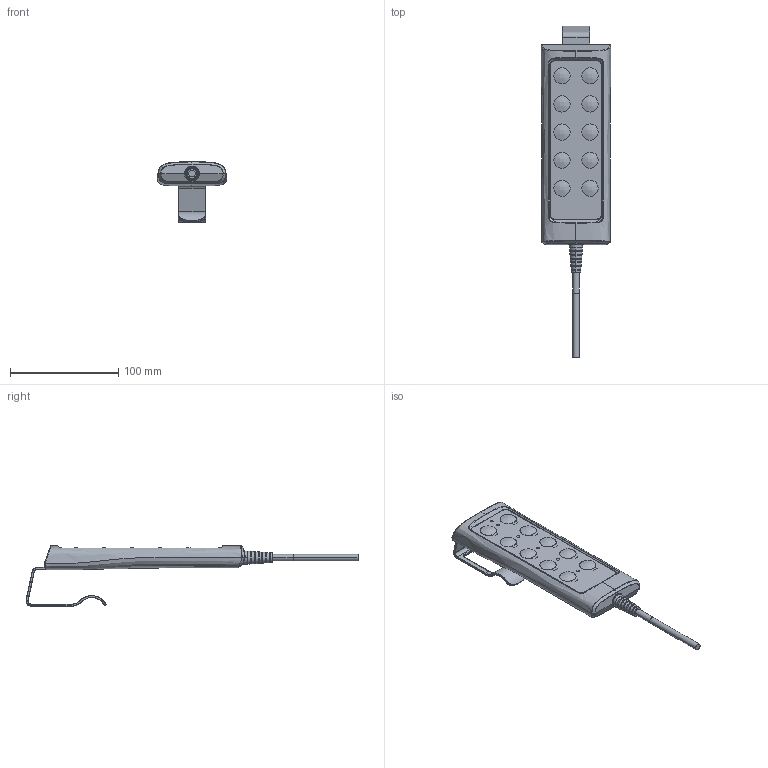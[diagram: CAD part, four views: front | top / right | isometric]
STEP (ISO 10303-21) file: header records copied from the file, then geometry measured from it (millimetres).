
FILE_DESCRIPTION (( 'STEP AP203' ), '1' );
FILE_NAME ('3D_TMH19.STEP', '2019-05-07T03:51:01', ( '' ), ( '' ), 'SwSTEP 2.0', 'SolidWorks 2015', '' );
FILE_SCHEMA (( 'CONFIG_CONTROL_DESIGN' ));
Length unit declared in the file: millimetre
Products named in the file (1): 3D_TMH19
Bounding box: 64 x 307.08 x 56 mm (x, y, z)
Surface area: 43411.5 mm2 (no closed solid volume)
Topology: 0 solids, 9 shells, 266 faces, 900 edges, 632 vertices
Faces by surface type: bspline 114, plane 81, cylinder 64, cone 7
Entity records: 20240 total; most frequent: CARTESIAN_POINT 13197, ORIENTED_EDGE 1430, DIRECTION 1287, EDGE_CURVE 900, VERTEX_POINT 632, AXIS2_PLACEMENT_3D 491, CIRCLE 338, EDGE_LOOP 306
